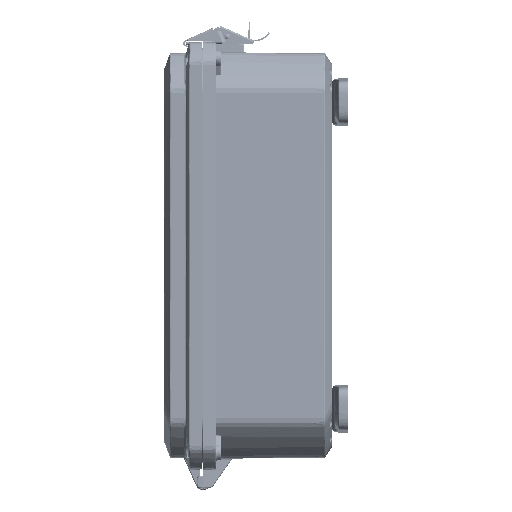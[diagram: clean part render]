
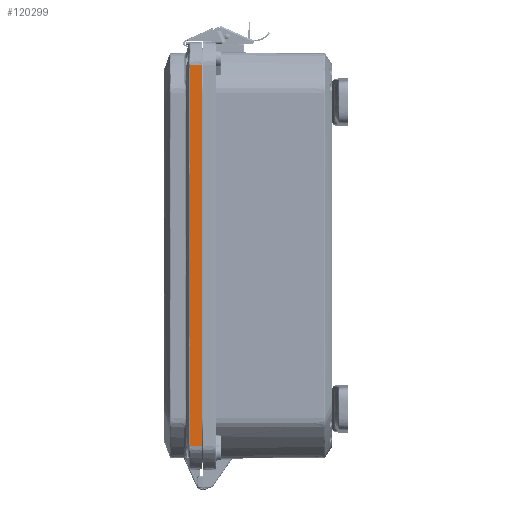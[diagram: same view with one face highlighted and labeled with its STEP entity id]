
A CAD part, left-side view. The second image highlights one B-rep face of the part: STEP entity #120299.
In plain terms, the highlighted planar face has unit normal (-0.999, 0.035, 0).
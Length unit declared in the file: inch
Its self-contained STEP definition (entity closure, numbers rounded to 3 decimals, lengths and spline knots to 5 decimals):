
#3503 = CARTESIAN_POINT ( 'NONE',  ( -7.60731, 0.36337, 0. ) ) ;
#5842 = ORIENTED_EDGE ( 'NONE', *, *, #58379, .T. ) ;
#12547 = CARTESIAN_POINT ( 'NONE',  ( -7.60731, 0.36333, -5.87512 ) ) ;
#16901 = CARTESIAN_POINT ( 'NONE',  ( -7.60732, 0.36314, 4.17241 ) ) ;
#21279 = VECTOR ( 'NONE', #83576, 39.37008 ) ;
#33133 = CARTESIAN_POINT ( 'NONE',  ( -7.60733, 0.36296, -5.89046 ) ) ;
#41109 = CARTESIAN_POINT ( 'NONE',  ( -7.60732, 0.36323, 5.03144 ) ) ;
#47579 = DIRECTION ( 'NONE',  ( -0.035, -0.999, 0. ) ) ;
#53322 = AXIS2_PLACEMENT_3D ( 'NONE', #318210, #218417, #47579 ) ;
#58379 = EDGE_CURVE ( 'NONE', #158102, #187411, #107821, .T. ) ;
#60919 = CARTESIAN_POINT ( 'NONE',  ( -7.60731, 0.36337, 0. ) ) ;
#68476 = CARTESIAN_POINT ( 'NONE',  ( -7.60733, 0.36296, 5.89046 ) ) ;
#83576 = DIRECTION ( 'NONE',  ( -0.035, -0.999, 0. ) ) ;
#87808 = VERTEX_POINT ( 'NONE', #3503 ) ;
#88281 = CARTESIAN_POINT ( 'NONE',  ( -7.62, 0., -5.89046 ) ) ;
#88295 = CARTESIAN_POINT ( 'NONE',  ( -7.60731, 0.36338, -5.78308 ) ) ;
#107188 = LINE ( 'NONE', #205370, #130045 ) ;
#107766 = CARTESIAN_POINT ( 'NONE',  ( -7.60731, 0.36335, -0.98174 ) ) ;
#107821 = LINE ( 'NONE', #177081, #21279 ) ;
#113673 = CARTESIAN_POINT ( 'NONE',  ( -7.60731, 0.36339, 5.8291 ) ) ;
#115284 = CARTESIAN_POINT ( 'NONE',  ( -7.60732, 0.36315, 3.4361 ) ) ;
#117897 = EDGE_CURVE ( 'NONE', #87808, #158102, #228956, .T. ) ;
#120022 = CARTESIAN_POINT ( 'NONE',  ( -7.60731, 0.3634, 5.85978 ) ) ;
#120299 = ADVANCED_FACE ( 'NONE', ( #170048 ), #268305, .T. ) ;
#130045 = VECTOR ( 'NONE', #276347, 39.37008 ) ;
#130790 = VERTEX_POINT ( 'NONE', #147007 ) ;
#137938 = EDGE_CURVE ( 'NONE', #130790, #291943, #107188, .T. ) ;
#138214 = CARTESIAN_POINT ( 'NONE',  ( -7.60731, 0.36335, -5.67571 ) ) ;
#146921 = DIRECTION ( 'NONE',  ( 0., 0., 1. ) ) ;
#147007 = CARTESIAN_POINT ( 'NONE',  ( -7.60733, 0.36296, 5.89046 ) ) ;
#158102 = VERTEX_POINT ( 'NONE', #33133 ) ;
#159215 = CARTESIAN_POINT ( 'NONE',  ( -7.60733, 0.36296, -5.89046 ) ) ;
#161131 = ORIENTED_EDGE ( 'NONE', *, *, #207710, .T. ) ;
#162402 = CARTESIAN_POINT ( 'NONE',  ( -7.60731, 0.36339, -5.8291 ) ) ;
#163611 = CARTESIAN_POINT ( 'NONE',  ( -7.60731, 0.36338, 5.78309 ) ) ;
#170048 = FACE_OUTER_BOUND ( 'NONE', #311349, .T. ) ;
#171091 = CARTESIAN_POINT ( 'NONE',  ( -7.62, 0., -5.89046 ) ) ;
#175337 = ORIENTED_EDGE ( 'NONE', *, *, #137938, .F. ) ;
#175386 = B_SPLINE_CURVE_WITH_KNOTS ( 'NONE', 3,
 ( #68476, #242430, #120022, #113673, #163611, #215147, #261857, #41109, #16901, #115284, #313357, #237653, #213546 ),
 .UNSPECIFIED., .F., .F.,
 ( 4, 2, 1, 1, 1, 1, 1, 2, 4 ),
 ( 0., 0.00117, 0.00234, 0.00468, 0.00935, 0.0187, 0.0374, 0.07481, 0.14962 ),
 .UNSPECIFIED. ) ;
#177081 = CARTESIAN_POINT ( 'NONE',  ( -7.62, 0., -5.89046 ) ) ;
#183337 = CARTESIAN_POINT ( 'NONE',  ( -7.60731, 0.36331, -5.46095 ) ) ;
#187411 = VERTEX_POINT ( 'NONE', #88281 ) ;
#203457 = ORIENTED_EDGE ( 'NONE', *, *, #117897, .T. ) ;
#205370 = CARTESIAN_POINT ( 'NONE',  ( -7.62, 0., 5.89046 ) ) ;
#205951 = CARTESIAN_POINT ( 'NONE',  ( -7.60732, 0.36315, -3.4361 ) ) ;
#207710 = EDGE_CURVE ( 'NONE', #130790, #87808, #175386, .T. ) ;
#209149 = CARTESIAN_POINT ( 'NONE',  ( -7.60732, 0.36322, -1.96349 ) ) ;
#213546 = CARTESIAN_POINT ( 'NONE',  ( -7.60731, 0.36337, 0. ) ) ;
#214626 = EDGE_CURVE ( 'NONE', #187411, #291943, #217871, .T. ) ;
#215147 = CARTESIAN_POINT ( 'NONE',  ( -7.60731, 0.36335, 5.67571 ) ) ;
#217871 = LINE ( 'NONE', #171091, #273068 ) ;
#218417 = DIRECTION ( 'NONE',  ( -0.999, 0.035, 0. ) ) ;
#228956 = B_SPLINE_CURVE_WITH_KNOTS ( 'NONE', 3,
 ( #60919, #107766, #209149, #205951, #280118, #260647, #278521, #183337, #138214, #88295, #162402, #304234, #12547, #159215 ),
 .UNSPECIFIED., .F., .F.,
 ( 4, 2, 2, 1, 1, 1, 1, 2, 4 ),
 ( 0., 0.07481, 0.11221, 0.13092, 0.14027, 0.14494, 0.14728, 0.14845, 0.14962 ),
 .UNSPECIFIED. ) ;
#237653 = CARTESIAN_POINT ( 'NONE',  ( -7.60731, 0.36335, 0.98174 ) ) ;
#238782 = CARTESIAN_POINT ( 'NONE',  ( -7.62, 0., 5.89046 ) ) ;
#242430 = CARTESIAN_POINT ( 'NONE',  ( -7.60731, 0.36333, 5.87512 ) ) ;
#260647 = CARTESIAN_POINT ( 'NONE',  ( -7.60732, 0.36319, -4.66328 ) ) ;
#261857 = CARTESIAN_POINT ( 'NONE',  ( -7.60731, 0.36331, 5.46095 ) ) ;
#262322 = ORIENTED_EDGE ( 'NONE', *, *, #214626, .T. ) ;
#268305 = PLANE ( 'NONE',  #53322 ) ;
#273068 = VECTOR ( 'NONE', #146921, 39.37008 ) ;
#276347 = DIRECTION ( 'NONE',  ( -0.035, -0.999, 0. ) ) ;
#278521 = CARTESIAN_POINT ( 'NONE',  ( -7.60732, 0.36323, -5.03144 ) ) ;
#280118 = CARTESIAN_POINT ( 'NONE',  ( -7.60732, 0.36314, -3.92698 ) ) ;
#291943 = VERTEX_POINT ( 'NONE', #238782 ) ;
#304234 = CARTESIAN_POINT ( 'NONE',  ( -7.60731, 0.3634, -5.85978 ) ) ;
#311349 = EDGE_LOOP ( 'NONE', ( #161131, #203457, #5842, #262322, #175337 ) ) ;
#313357 = CARTESIAN_POINT ( 'NONE',  ( -7.60732, 0.36322, 1.96349 ) ) ;
#318210 = CARTESIAN_POINT ( 'NONE',  ( -7.62, 0., -5.89046 ) ) ;
